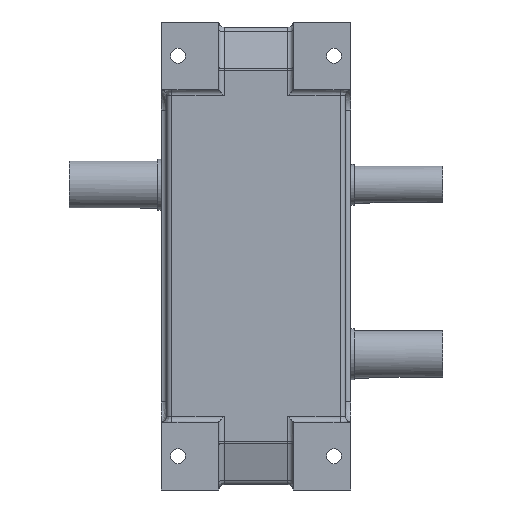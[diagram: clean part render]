
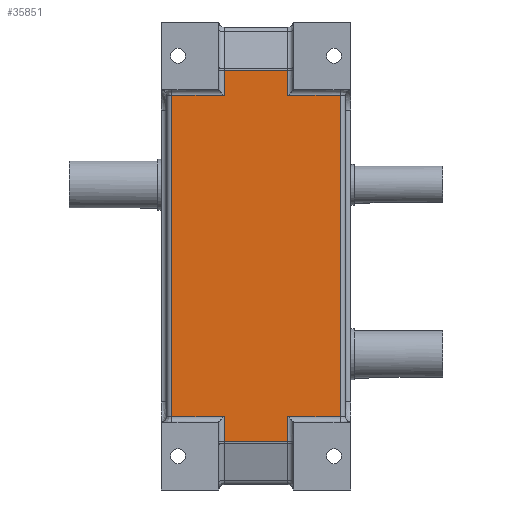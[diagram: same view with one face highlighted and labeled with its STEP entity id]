
A CAD part, front view. The second image highlights one B-rep face of the part: STEP entity #35851.
In plain terms, the highlighted planar face has unit normal (0, -1, 0).
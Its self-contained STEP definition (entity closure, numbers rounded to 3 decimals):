
#138 = VECTOR ( 'NONE', #5557, 1000. ) ;
#286 = ORIENTED_EDGE ( 'NONE', *, *, #19421, .F. ) ;
#302 = CARTESIAN_POINT ( 'NONE',  ( -187., -232., 382. ) ) ;
#373 = DIRECTION ( 'NONE',  ( 0., 0., -1. ) ) ;
#1054 = ORIENTED_EDGE ( 'NONE', *, *, #30891, .F. ) ;
#1551 = LINE ( 'NONE', #44015, #4540 ) ;
#2635 = LINE ( 'NONE', #25609, #41447 ) ;
#2753 = DIRECTION ( 'NONE',  ( 0., 0., -1. ) ) ;
#2790 = EDGE_CURVE ( 'NONE', #22846, #29815, #39916, .T. ) ;
#4320 = LINE ( 'NONE', #46794, #31813 ) ;
#4540 = VECTOR ( 'NONE', #39139, 1000. ) ;
#4852 = EDGE_CURVE ( 'NONE', #34976, #36139, #41758, .T. ) ;
#4915 = EDGE_CURVE ( 'NONE', #38046, #43463, #15267, .T. ) ;
#4951 = CARTESIAN_POINT ( 'NONE',  ( -187., -232., 418.923 ) ) ;
#5158 = CARTESIAN_POINT ( 'NONE',  ( -187., -232., 390. ) ) ;
#5557 = DIRECTION ( 'NONE',  ( 0., 0., -1. ) ) ;
#5634 = VECTOR ( 'NONE', #2753, 1000. ) ;
#5829 = EDGE_CURVE ( 'NONE', #42651, #22846, #12427, .T. ) ;
#5876 = VECTOR ( 'NONE', #8599, 1000. ) ;
#6741 = EDGE_CURVE ( 'NONE', #22568, #29815, #10019, .T. ) ;
#7147 = ORIENTED_EDGE ( 'NONE', *, *, #27671, .T. ) ;
#7598 = CARTESIAN_POINT ( 'NONE',  ( -93., -232., 390. ) ) ;
#7722 = DIRECTION ( 'NONE',  ( 0., 0., 1. ) ) ;
#8541 = CARTESIAN_POINT ( 'NONE',  ( -264., -232., 382. ) ) ;
#8599 = DIRECTION ( 'NONE',  ( -1., 0., 0. ) ) ;
#10019 = LINE ( 'NONE', #5158, #42387 ) ;
#10390 = VERTEX_POINT ( 'NONE', #8541 ) ;
#10443 = CARTESIAN_POINT ( 'NONE',  ( -16., -232., 390. ) ) ;
#10448 = CARTESIAN_POINT ( 'NONE',  ( -93., -232., 418.923 ) ) ;
#11404 = VECTOR ( 'NONE', #14738, 1000. ) ;
#11874 = EDGE_CURVE ( 'NONE', #43463, #42651, #24290, .T. ) ;
#12263 = VERTEX_POINT ( 'NONE', #10448 ) ;
#12427 = LINE ( 'NONE', #7598, #5634 ) ;
#12547 = DIRECTION ( 'NONE',  ( 0., 1., 0. ) ) ;
#13453 = CARTESIAN_POINT ( 'NONE',  ( -195., -232., 382. ) ) ;
#14738 = DIRECTION ( 'NONE',  ( -1., 0., 0. ) ) ;
#14843 = PLANE ( 'NONE',  #27329 ) ;
#15267 = LINE ( 'NONE', #10443, #138 ) ;
#15277 = DIRECTION ( 'NONE',  ( 1., 0., 0. ) ) ;
#16975 = CARTESIAN_POINT ( 'NONE',  ( -16., -232., -92. ) ) ;
#17354 = CARTESIAN_POINT ( 'NONE',  ( -195., -232., 390. ) ) ;
#18267 = LINE ( 'NONE', #13453, #5876 ) ;
#19309 = VECTOR ( 'NONE', #15277, 1000. ) ;
#19337 = ORIENTED_EDGE ( 'NONE', *, *, #11874, .F. ) ;
#19373 = VERTEX_POINT ( 'NONE', #20180 ) ;
#19421 = EDGE_CURVE ( 'NONE', #19373, #10390, #4320, .T. ) ;
#19503 = CARTESIAN_POINT ( 'NONE',  ( -195., -232., -92. ) ) ;
#19587 = ORIENTED_EDGE ( 'NONE', *, *, #42805, .T. ) ;
#19788 = EDGE_CURVE ( 'NONE', #34976, #12263, #34792, .T. ) ;
#20023 = CARTESIAN_POINT ( 'NONE',  ( -195., -232., 382. ) ) ;
#20180 = CARTESIAN_POINT ( 'NONE',  ( -264., -232., -92. ) ) ;
#20773 = DIRECTION ( 'NONE',  ( 1., 0., 0. ) ) ;
#22005 = ORIENTED_EDGE ( 'NONE', *, *, #19788, .F. ) ;
#22568 = VERTEX_POINT ( 'NONE', #40487 ) ;
#22753 = ORIENTED_EDGE ( 'NONE', *, *, #6741, .T. ) ;
#22846 = VERTEX_POINT ( 'NONE', #43614 ) ;
#23630 = FACE_OUTER_BOUND ( 'NONE', #32158, .T. ) ;
#24126 = VERTEX_POINT ( 'NONE', #37729 ) ;
#24290 = LINE ( 'NONE', #19503, #11404 ) ;
#24853 = LINE ( 'NONE', #20023, #19309 ) ;
#24867 = ORIENTED_EDGE ( 'NONE', *, *, #5829, .F. ) ;
#25051 = DIRECTION ( 'NONE',  ( 1., 0., 0. ) ) ;
#25386 = ORIENTED_EDGE ( 'NONE', *, *, #28424, .F. ) ;
#25609 = CARTESIAN_POINT ( 'NONE',  ( -195., -232., -92. ) ) ;
#27329 = AXIS2_PLACEMENT_3D ( 'NONE', #17354, #12547, #7722 ) ;
#27671 = EDGE_CURVE ( 'NONE', #36139, #10390, #18267, .T. ) ;
#28424 = EDGE_CURVE ( 'NONE', #24126, #38046, #24853, .T. ) ;
#29815 = VERTEX_POINT ( 'NONE', #41010 ) ;
#29960 = CARTESIAN_POINT ( 'NONE',  ( -195., -232., 418.923 ) ) ;
#30200 = DIRECTION ( 'NONE',  ( -1., 0., 0. ) ) ;
#30891 = EDGE_CURVE ( 'NONE', #12263, #24126, #1551, .T. ) ;
#31813 = VECTOR ( 'NONE', #41901, 1000. ) ;
#32046 = DIRECTION ( 'NONE',  ( 0., 0., -1. ) ) ;
#32158 = EDGE_LOOP ( 'NONE', ( #7147, #286, #19587, #22753, #35236, #24867, #19337, #42824, #25386, #1054, #22005, #34226 ) ) ;
#32725 = VECTOR ( 'NONE', #32046, 1000. ) ;
#33661 = CARTESIAN_POINT ( 'NONE',  ( -16., -232., 382. ) ) ;
#34226 = ORIENTED_EDGE ( 'NONE', *, *, #4852, .T. ) ;
#34792 = LINE ( 'NONE', #29960, #38242 ) ;
#34976 = VERTEX_POINT ( 'NONE', #4951 ) ;
#35038 = CARTESIAN_POINT ( 'NONE',  ( -195., -232., -128.923 ) ) ;
#35236 = ORIENTED_EDGE ( 'NONE', *, *, #2790, .F. ) ;
#35851 = ADVANCED_FACE ( 'NONE', ( #23630 ), #14843, .F. ) ;
#35947 = VECTOR ( 'NONE', #30200, 1000. ) ;
#36139 = VERTEX_POINT ( 'NONE', #302 ) ;
#36911 = CARTESIAN_POINT ( 'NONE',  ( -187., -232., 390. ) ) ;
#37729 = CARTESIAN_POINT ( 'NONE',  ( -93., -232., 382. ) ) ;
#38046 = VERTEX_POINT ( 'NONE', #33661 ) ;
#38242 = VECTOR ( 'NONE', #25051, 1000. ) ;
#39139 = DIRECTION ( 'NONE',  ( 0., 0., -1. ) ) ;
#39916 = LINE ( 'NONE', #35038, #35947 ) ;
#40487 = CARTESIAN_POINT ( 'NONE',  ( -187., -232., -92. ) ) ;
#41010 = CARTESIAN_POINT ( 'NONE',  ( -187., -232., -128.923 ) ) ;
#41447 = VECTOR ( 'NONE', #20773, 1000. ) ;
#41758 = LINE ( 'NONE', #36911, #32725 ) ;
#41901 = DIRECTION ( 'NONE',  ( 0., 0., 1. ) ) ;
#42387 = VECTOR ( 'NONE', #373, 1000. ) ;
#42651 = VERTEX_POINT ( 'NONE', #45669 ) ;
#42805 = EDGE_CURVE ( 'NONE', #19373, #22568, #2635, .T. ) ;
#42824 = ORIENTED_EDGE ( 'NONE', *, *, #4915, .F. ) ;
#43463 = VERTEX_POINT ( 'NONE', #16975 ) ;
#43614 = CARTESIAN_POINT ( 'NONE',  ( -93., -232., -128.923 ) ) ;
#44015 = CARTESIAN_POINT ( 'NONE',  ( -93., -232., 390. ) ) ;
#45669 = CARTESIAN_POINT ( 'NONE',  ( -93., -232., -92. ) ) ;
#46794 = CARTESIAN_POINT ( 'NONE',  ( -264., -232., 390. ) ) ;
